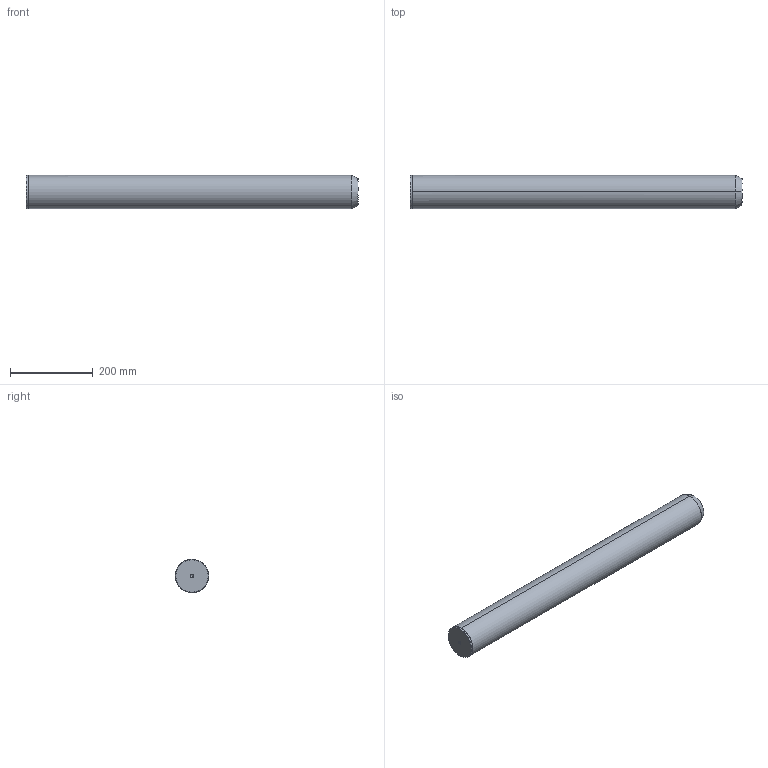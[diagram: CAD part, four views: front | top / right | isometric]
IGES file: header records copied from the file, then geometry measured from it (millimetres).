
Start section: START RECORD GO HERE.
Global section: file name: 720-80x800.igs; native system: DASSAULT SYSTEMES CATIA V5 R20 - www.3ds.com; preprocessor: CATIA Version 5 Release 20 ; author: Utente; organization: NB04-ASUS; date: 20210101.141347; units: millimetre
Bounding box: 800 x 80 x 80 mm (x, y, z)
Surface area: 209999.8 mm2 (no closed solid volume)
Topology: 0 solids, 0 shells, 26 faces, 160 edges, 156 vertices
Faces by surface type: revolution 20, plane 4, bspline 2
